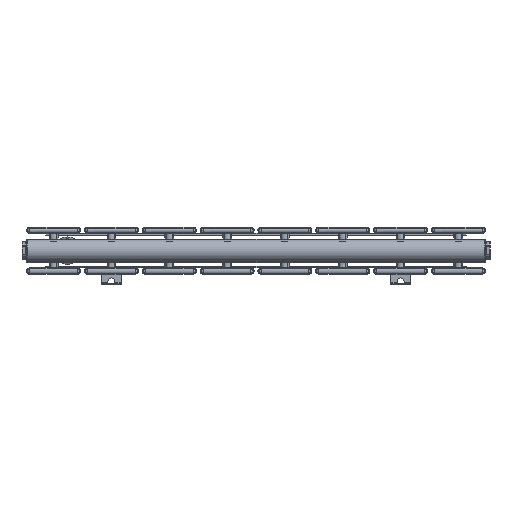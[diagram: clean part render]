
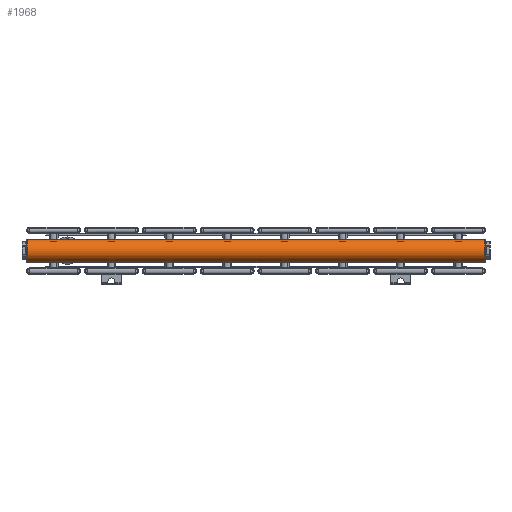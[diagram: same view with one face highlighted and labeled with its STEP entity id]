
A CAD part, left-side view. The second image highlights one B-rep face of the part: STEP entity #1968.
In plain terms, the highlighted cylindrical face has radius 15 mm (diameter 30 mm), a full revolution.
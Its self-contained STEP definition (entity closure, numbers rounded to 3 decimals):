
#674=FACE_BOUND('',#897,.T.);
#769=FACE_OUTER_BOUND('',#896,.T.);
#896=EDGE_LOOP('',(#1752));
#897=EDGE_LOOP('',(#1753));
#1000=CIRCLE('',#2209,15.);
#1001=CIRCLE('',#2211,15.);
#1138=VERTEX_POINT('',#3752);
#1139=VERTEX_POINT('',#3755);
#1352=EDGE_CURVE('',#1138,#1138,#1000,.T.);
#1353=EDGE_CURVE('',#1139,#1139,#1001,.T.);
#1752=ORIENTED_EDGE('',*,*,#1352,.F.);
#1753=ORIENTED_EDGE('',*,*,#1353,.F.);
#1883=CYLINDRICAL_SURFACE('',#2212,15.);
#1968=ADVANCED_FACE('',(#769,#674),#1883,.T.);
#2209=AXIS2_PLACEMENT_3D('',#3753,#2724,#2725);
#2211=AXIS2_PLACEMENT_3D('',#3756,#2728,#2729);
#2212=AXIS2_PLACEMENT_3D('',#3757,#2730,#2731);
#2724=DIRECTION('center_axis',(0.,0.,1.));
#2725=DIRECTION('ref_axis',(-1.,0.,0.));
#2728=DIRECTION('center_axis',(0.,0.,-1.));
#2729=DIRECTION('ref_axis',(-1.,0.,0.));
#2730=DIRECTION('center_axis',(0.,0.,1.));
#2731=DIRECTION('ref_axis',(-1.,0.,0.));
#3752=CARTESIAN_POINT('',(15.,-15.,595.));
#3753=CARTESIAN_POINT('Origin',(0.,-15.,595.));
#3755=CARTESIAN_POINT('',(15.,-15.,0.));
#3756=CARTESIAN_POINT('Origin',(0.,-15.,0.));
#3757=CARTESIAN_POINT('Origin',(0.,-15.,0.));
